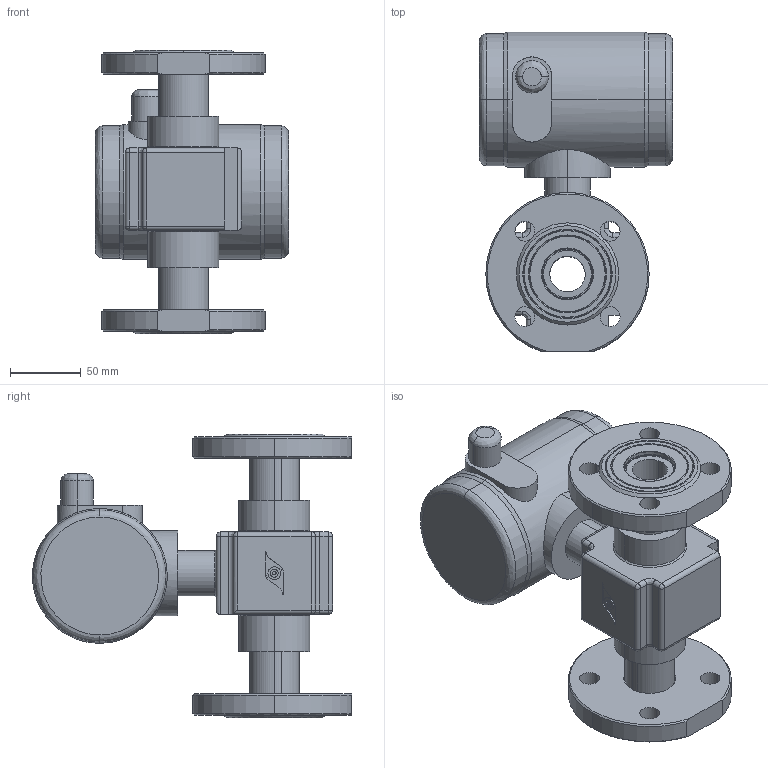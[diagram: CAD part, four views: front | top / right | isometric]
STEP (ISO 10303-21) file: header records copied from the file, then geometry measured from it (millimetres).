
FILE_DESCRIPTION (( 'STEP AP203' ), '1' );
FILE_NAME ('ﾐﾑ25 ﾔ1.STEP', '2022-11-11T06:03:29', ( '' ), ( '' ), 'SwSTEP 2.0', 'SolidWorks 2020', '' );
FILE_SCHEMA (( 'CONFIG_CONTROL_DESIGN' ));
Length unit declared in the file: millimetre
Products named in the file (1): ﾐﾑ25 ﾔ1
Bounding box: 136 x 225 x 200 mm (x, y, z)
Volume: 1734134.1 mm3; surface area: 216135 mm2
Topology: 6 solids, 6 shells, 275 faces, 654 edges, 396 vertices
Faces by surface type: cylinder 114, plane 70, cone 54, bspline 37
Entity records: 9561 total; most frequent: CARTESIAN_POINT 3185, DIRECTION 1365, ORIENTED_EDGE 1280, EDGE_CURVE 640, AXIS2_PLACEMENT_3D 549, VERTEX_POINT 396, EDGE_LOOP 322, CIRCLE 310
